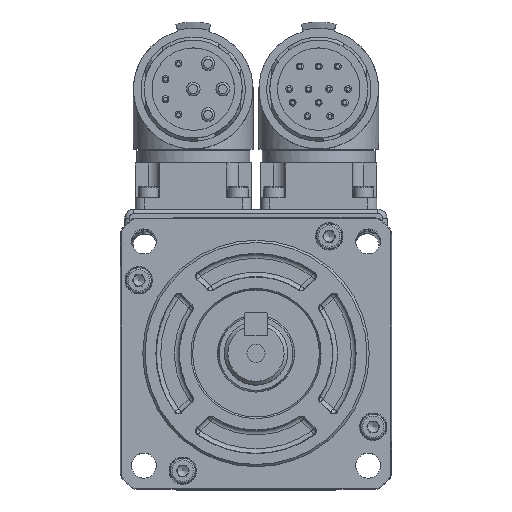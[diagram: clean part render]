
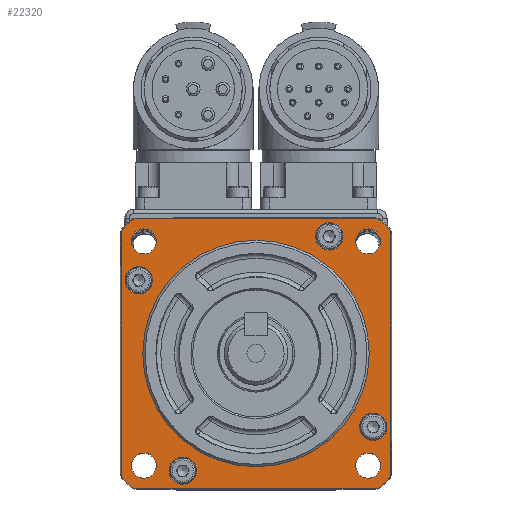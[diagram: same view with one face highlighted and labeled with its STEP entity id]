
A CAD part, top view. The second image highlights one B-rep face of the part: STEP entity #22320.
In plain terms, the highlighted planar face has unit normal (0, 0, 1).
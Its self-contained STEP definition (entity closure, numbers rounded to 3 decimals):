
#2082=CIRCLE('',#24480,3.018);
#2093=CIRCLE('',#24509,3.018);
#2104=CIRCLE('',#24538,3.018);
#2115=CIRCLE('',#24567,3.018);
#2116=CIRCLE('',#24569,2.75);
#2152=CIRCLE('',#24640,2.75);
#2172=CIRCLE('',#24684,2.75);
#2184=CIRCLE('',#24724,2.75);
#2211=CIRCLE('',#24782,1.777);
#2212=CIRCLE('',#24784,40.277);
#2213=CIRCLE('',#24786,1.777);
#2214=CIRCLE('',#24789,1.777);
#2215=CIRCLE('',#24791,40.277);
#2216=CIRCLE('',#24793,1.777);
#2217=CIRCLE('',#24796,1.777);
#2218=CIRCLE('',#24798,40.277);
#2219=CIRCLE('',#24800,1.777);
#2220=CIRCLE('',#24803,1.777);
#2221=CIRCLE('',#24805,40.277);
#2222=CIRCLE('',#24807,1.777);
#2223=CIRCLE('',#24810,25.);
#6699=ORIENTED_EDGE('',*,*,#10644,.F.);
#6700=ORIENTED_EDGE('',*,*,#10481,.F.);
#6701=ORIENTED_EDGE('',*,*,#10578,.F.);
#6702=ORIENTED_EDGE('',*,*,#10517,.F.);
#6703=ORIENTED_EDGE('',*,*,#10375,.F.);
#6704=ORIENTED_EDGE('',*,*,#10410,.F.);
#6705=ORIENTED_EDGE('',*,*,#10445,.F.);
#6706=ORIENTED_EDGE('',*,*,#10764,.F.);
#6707=ORIENTED_EDGE('',*,*,#10480,.F.);
#6708=ORIENTED_EDGE('',*,*,#10761,.F.);
#6709=ORIENTED_EDGE('',*,*,#10759,.F.);
#6710=ORIENTED_EDGE('',*,*,#10757,.F.);
#6711=ORIENTED_EDGE('',*,*,#10756,.T.);
#6712=ORIENTED_EDGE('',*,*,#10753,.F.);
#6713=ORIENTED_EDGE('',*,*,#10751,.F.);
#6714=ORIENTED_EDGE('',*,*,#10749,.F.);
#6715=ORIENTED_EDGE('',*,*,#10748,.T.);
#6716=ORIENTED_EDGE('',*,*,#10745,.F.);
#6717=ORIENTED_EDGE('',*,*,#10743,.F.);
#6718=ORIENTED_EDGE('',*,*,#10741,.F.);
#6719=ORIENTED_EDGE('',*,*,#10740,.T.);
#6720=ORIENTED_EDGE('',*,*,#10737,.F.);
#6721=ORIENTED_EDGE('',*,*,#10735,.F.);
#6722=ORIENTED_EDGE('',*,*,#10732,.F.);
#6723=ORIENTED_EDGE('',*,*,#10763,.T.);
#10375=EDGE_CURVE('',#12859,#12859,#2082,.T.);
#10410=EDGE_CURVE('',#12883,#12883,#2093,.T.);
#10445=EDGE_CURVE('',#12907,#12907,#2104,.T.);
#10480=EDGE_CURVE('',#12931,#12931,#2115,.T.);
#10481=EDGE_CURVE('',#12932,#12932,#2116,.T.);
#10517=EDGE_CURVE('',#12968,#12968,#2152,.T.);
#10578=EDGE_CURVE('',#13008,#13008,#2172,.T.);
#10644=EDGE_CURVE('',#13055,#13055,#2184,.T.);
#10732=EDGE_CURVE('',#13109,#13110,#2211,.T.);
#10735=EDGE_CURVE('',#13110,#13111,#2212,.T.);
#10737=EDGE_CURVE('',#13111,#13112,#2213,.T.);
#10740=EDGE_CURVE('',#13113,#13112,#14749,.T.);
#10741=EDGE_CURVE('',#13113,#13114,#2214,.T.);
#10743=EDGE_CURVE('',#13114,#13115,#2215,.T.);
#10745=EDGE_CURVE('',#13115,#13116,#2216,.T.);
#10748=EDGE_CURVE('',#13117,#13116,#14754,.T.);
#10749=EDGE_CURVE('',#13117,#13118,#2217,.T.);
#10751=EDGE_CURVE('',#13118,#13119,#2218,.T.);
#10753=EDGE_CURVE('',#13119,#13120,#2219,.T.);
#10756=EDGE_CURVE('',#13121,#13120,#14759,.T.);
#10757=EDGE_CURVE('',#13121,#13122,#2220,.T.);
#10759=EDGE_CURVE('',#13122,#13123,#2221,.T.);
#10761=EDGE_CURVE('',#13123,#13124,#2222,.T.);
#10763=EDGE_CURVE('',#13109,#13124,#14763,.T.);
#10764=EDGE_CURVE('',#13125,#13125,#2223,.T.);
#12859=VERTEX_POINT('',#38852);
#12883=VERTEX_POINT('',#38929);
#12907=VERTEX_POINT('',#39006);
#12931=VERTEX_POINT('',#39083);
#12932=VERTEX_POINT('',#39086);
#12968=VERTEX_POINT('',#39193);
#13008=VERTEX_POINT('',#39707);
#13055=VERTEX_POINT('',#40083);
#13109=VERTEX_POINT('',#40858);
#13110=VERTEX_POINT('',#40859);
#13111=VERTEX_POINT('',#40864);
#13112=VERTEX_POINT('',#40868);
#13113=VERTEX_POINT('',#40872);
#13114=VERTEX_POINT('',#40876);
#13115=VERTEX_POINT('',#40880);
#13116=VERTEX_POINT('',#40884);
#13117=VERTEX_POINT('',#40888);
#13118=VERTEX_POINT('',#40892);
#13119=VERTEX_POINT('',#40896);
#13120=VERTEX_POINT('',#40900);
#13121=VERTEX_POINT('',#40904);
#13122=VERTEX_POINT('',#40908);
#13123=VERTEX_POINT('',#40912);
#13124=VERTEX_POINT('',#40916);
#13125=VERTEX_POINT('',#40922);
#14749=LINE('',#40873,#16208);
#14754=LINE('',#40889,#16213);
#14759=LINE('',#40905,#16218);
#14763=LINE('',#40919,#16222);
#16208=VECTOR('',#30089,1000.);
#16213=VECTOR('',#30108,1000.);
#16218=VECTOR('',#30127,1000.);
#16222=VECTOR('',#30145,1000.);
#18029=EDGE_LOOP('',(#6699));
#18030=EDGE_LOOP('',(#6700));
#18031=EDGE_LOOP('',(#6701));
#18032=EDGE_LOOP('',(#6702));
#18033=EDGE_LOOP('',(#6703));
#18034=EDGE_LOOP('',(#6704));
#18035=EDGE_LOOP('',(#6705));
#18036=EDGE_LOOP('',(#6706));
#18037=EDGE_LOOP('',(#6707));
#18038=EDGE_LOOP('',(#6708,#6709,#6710,#6711,#6712,#6713,#6714,#6715,#6716,
#6717,#6718,#6719,#6720,#6721,#6722,#6723));
#19997=FACE_BOUND('',#18029,.T.);
#19998=FACE_BOUND('',#18030,.T.);
#19999=FACE_BOUND('',#18031,.T.);
#20000=FACE_BOUND('',#18032,.T.);
#20001=FACE_BOUND('',#18033,.T.);
#20002=FACE_BOUND('',#18034,.T.);
#20003=FACE_BOUND('',#18035,.T.);
#20004=FACE_BOUND('',#18036,.T.);
#20005=FACE_BOUND('',#18037,.T.);
#20006=FACE_BOUND('',#18038,.T.);
#21095=PLANE('',#24809);
#22320=ADVANCED_FACE('',(#19997,#19998,#19999,#20000,#20001,#20002,#20003,
#20004,#20005,#20006),#21095,.T.);
#24480=AXIS2_PLACEMENT_3D('',#38851,#29312,#29313);
#24509=AXIS2_PLACEMENT_3D('',#38928,#29394,#29395);
#24538=AXIS2_PLACEMENT_3D('',#39005,#29476,#29477);
#24567=AXIS2_PLACEMENT_3D('',#39082,#29558,#29559);
#24569=AXIS2_PLACEMENT_3D('',#39085,#29562,#29563);
#24640=AXIS2_PLACEMENT_3D('',#39192,#29704,#29705);
#24684=AXIS2_PLACEMENT_3D('',#39706,#29813,#29814);
#24724=AXIS2_PLACEMENT_3D('',#40082,#29925,#29926);
#24782=AXIS2_PLACEMENT_3D('',#40857,#30072,#30073);
#24784=AXIS2_PLACEMENT_3D('',#40863,#30078,#30079);
#24786=AXIS2_PLACEMENT_3D('',#40867,#30083,#30084);
#24789=AXIS2_PLACEMENT_3D('',#40875,#30092,#30093);
#24791=AXIS2_PLACEMENT_3D('',#40879,#30097,#30098);
#24793=AXIS2_PLACEMENT_3D('',#40883,#30102,#30103);
#24796=AXIS2_PLACEMENT_3D('',#40891,#30111,#30112);
#24798=AXIS2_PLACEMENT_3D('',#40895,#30116,#30117);
#24800=AXIS2_PLACEMENT_3D('',#40899,#30121,#30122);
#24803=AXIS2_PLACEMENT_3D('',#40907,#30130,#30131);
#24805=AXIS2_PLACEMENT_3D('',#40911,#30135,#30136);
#24807=AXIS2_PLACEMENT_3D('',#40915,#30140,#30141);
#24809=AXIS2_PLACEMENT_3D('',#40920,#30146,#30147);
#24810=AXIS2_PLACEMENT_3D('',#40921,#30148,#30149);
#29312=DIRECTION('',(0.,0.,1.));
#29313=DIRECTION('',(1.,0.,0.));
#29394=DIRECTION('',(0.,0.,1.));
#29395=DIRECTION('',(1.,0.,0.));
#29476=DIRECTION('',(0.,0.,1.));
#29477=DIRECTION('',(1.,0.,0.));
#29558=DIRECTION('',(0.,0.,1.));
#29559=DIRECTION('',(1.,0.,0.));
#29562=DIRECTION('',(0.,0.,1.));
#29563=DIRECTION('',(-1.,0.,0.));
#29704=DIRECTION('',(0.,0.,1.));
#29705=DIRECTION('',(-1.,0.,0.));
#29813=DIRECTION('',(0.,0.,1.));
#29814=DIRECTION('',(-1.,0.,0.));
#29925=DIRECTION('',(0.,0.,1.));
#29926=DIRECTION('',(-1.,0.,0.));
#30072=DIRECTION('',(0.,0.,-1.));
#30073=DIRECTION('',(0.,-1.,0.));
#30078=DIRECTION('',(0.,0.,-1.));
#30079=DIRECTION('',(-0.686,-0.727,0.));
#30083=DIRECTION('',(0.,0.,-1.));
#30084=DIRECTION('',(-0.727,-0.686,0.));
#30089=DIRECTION('',(0.,-1.,0.));
#30092=DIRECTION('',(0.,0.,-1.));
#30093=DIRECTION('',(-1.,0.,0.));
#30097=DIRECTION('',(0.,0.,-1.));
#30098=DIRECTION('',(-0.727,0.686,0.));
#30102=DIRECTION('',(0.,0.,-1.));
#30103=DIRECTION('',(-0.686,0.727,0.));
#30108=DIRECTION('',(-1.,0.,0.));
#30111=DIRECTION('',(0.,0.,-1.));
#30112=DIRECTION('',(0.,1.,0.));
#30116=DIRECTION('',(0.,0.,-1.));
#30117=DIRECTION('',(0.686,0.727,0.));
#30121=DIRECTION('',(0.,0.,-1.));
#30122=DIRECTION('',(0.727,0.686,0.));
#30127=DIRECTION('',(0.,1.,0.));
#30130=DIRECTION('',(0.,0.,-1.));
#30131=DIRECTION('',(1.,0.,0.));
#30135=DIRECTION('',(0.,0.,-1.));
#30136=DIRECTION('',(0.727,-0.686,0.));
#30140=DIRECTION('',(0.,0.,-1.));
#30141=DIRECTION('',(0.686,-0.727,0.));
#30145=DIRECTION('',(1.,0.,0.));
#30146=DIRECTION('',(0.,0.,1.));
#30147=DIRECTION('',(0.,1.,0.));
#30148=DIRECTION('',(0.,0.,1.));
#30149=DIRECTION('',(0.,-1.,0.));
#38851=CARTESIAN_POINT('',(16.163,25.865,42.347));
#38852=CARTESIAN_POINT('',(19.18,25.865,42.347));
#38928=CARTESIAN_POINT('',(-25.865,16.163,42.347));
#38929=CARTESIAN_POINT('',(-22.848,16.163,42.347));
#39005=CARTESIAN_POINT('',(25.865,-16.163,42.347));
#39006=CARTESIAN_POINT('',(28.883,-16.163,42.347));
#39082=CARTESIAN_POINT('',(-16.163,-25.865,42.347));
#39083=CARTESIAN_POINT('',(-13.145,-25.865,42.347));
#39085=CARTESIAN_POINT('',(-24.749,-24.749,42.347));
#39086=CARTESIAN_POINT('',(-27.499,-24.749,42.347));
#39192=CARTESIAN_POINT('',(-24.749,24.749,42.347));
#39193=CARTESIAN_POINT('',(-27.499,24.749,42.347));
#39706=CARTESIAN_POINT('',(24.749,24.749,42.347));
#39707=CARTESIAN_POINT('',(21.999,24.749,42.347));
#40082=CARTESIAN_POINT('',(24.749,-24.749,42.347));
#40083=CARTESIAN_POINT('',(21.999,-24.749,42.347));
#40857=CARTESIAN_POINT('',(-26.424,-28.,42.347));
#40858=CARTESIAN_POINT('',(-26.424,-29.777,42.347));
#40859=CARTESIAN_POINT('',(-27.644,-29.293,42.347));
#40863=CARTESIAN_POINT('',(0.,0.,42.347));
#40864=CARTESIAN_POINT('',(-29.293,-27.644,42.347));
#40867=CARTESIAN_POINT('',(-28.,-26.424,42.347));
#40868=CARTESIAN_POINT('',(-29.777,-26.424,42.347));
#40872=CARTESIAN_POINT('',(-29.777,26.424,42.347));
#40873=CARTESIAN_POINT('',(-29.777,26.424,42.347));
#40875=CARTESIAN_POINT('',(-28.,26.424,42.347));
#40876=CARTESIAN_POINT('',(-29.293,27.644,42.347));
#40879=CARTESIAN_POINT('',(0.,0.,42.347));
#40880=CARTESIAN_POINT('',(-27.644,29.293,42.347));
#40883=CARTESIAN_POINT('',(-26.424,28.,42.347));
#40884=CARTESIAN_POINT('',(-26.424,29.777,42.347));
#40888=CARTESIAN_POINT('',(26.424,29.777,42.347));
#40889=CARTESIAN_POINT('',(26.424,29.777,42.347));
#40891=CARTESIAN_POINT('',(26.424,28.,42.347));
#40892=CARTESIAN_POINT('',(27.644,29.293,42.347));
#40895=CARTESIAN_POINT('',(0.,0.,42.347));
#40896=CARTESIAN_POINT('',(29.293,27.644,42.347));
#40899=CARTESIAN_POINT('',(28.,26.424,42.347));
#40900=CARTESIAN_POINT('',(29.777,26.424,42.347));
#40904=CARTESIAN_POINT('',(29.777,-26.424,42.347));
#40905=CARTESIAN_POINT('',(29.777,-26.424,42.347));
#40907=CARTESIAN_POINT('',(28.,-26.424,42.347));
#40908=CARTESIAN_POINT('',(29.293,-27.644,42.347));
#40911=CARTESIAN_POINT('',(0.,0.,42.347));
#40912=CARTESIAN_POINT('',(27.644,-29.293,42.347));
#40915=CARTESIAN_POINT('',(26.424,-28.,42.347));
#40916=CARTESIAN_POINT('',(26.424,-29.777,42.347));
#40919=CARTESIAN_POINT('',(-26.424,-29.777,42.347));
#40920=CARTESIAN_POINT('',(0.,25.,42.347));
#40921=CARTESIAN_POINT('',(0.,0.,42.347));
#40922=CARTESIAN_POINT('',(0.,-25.,42.347));
